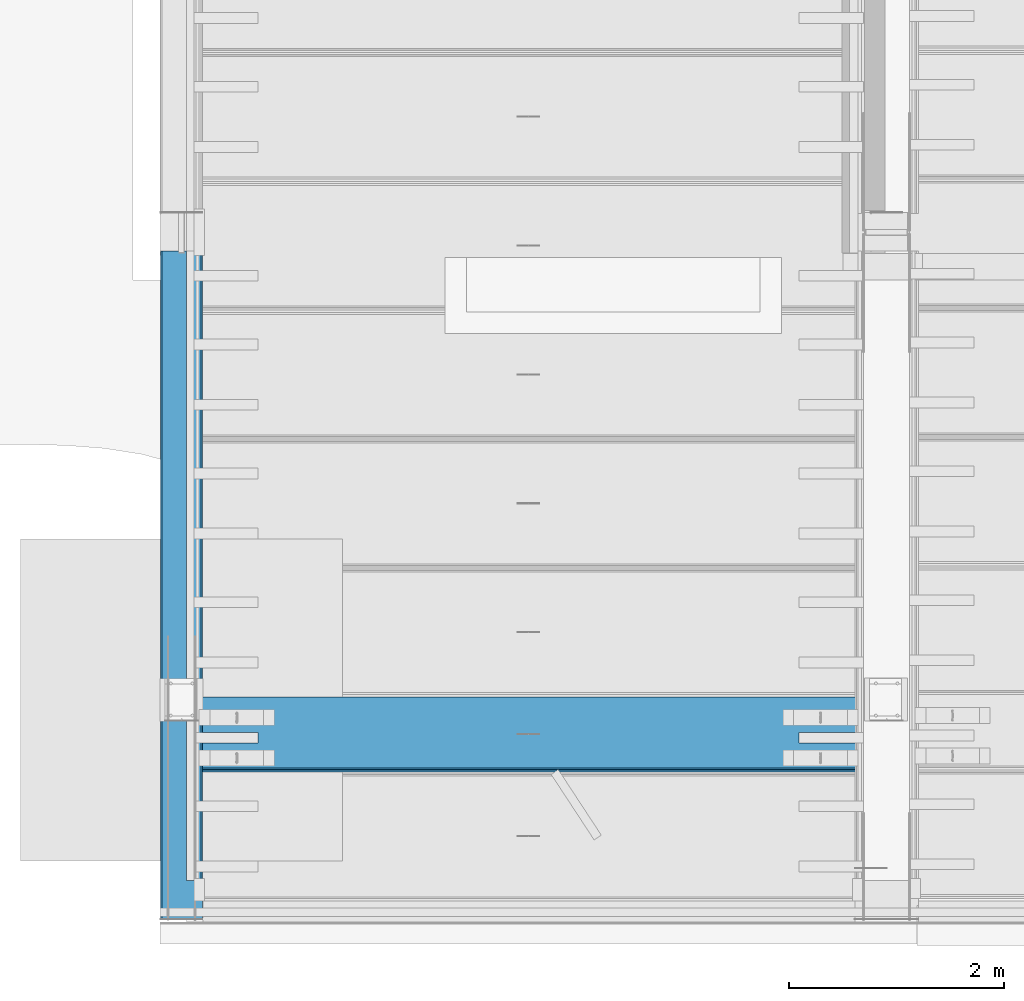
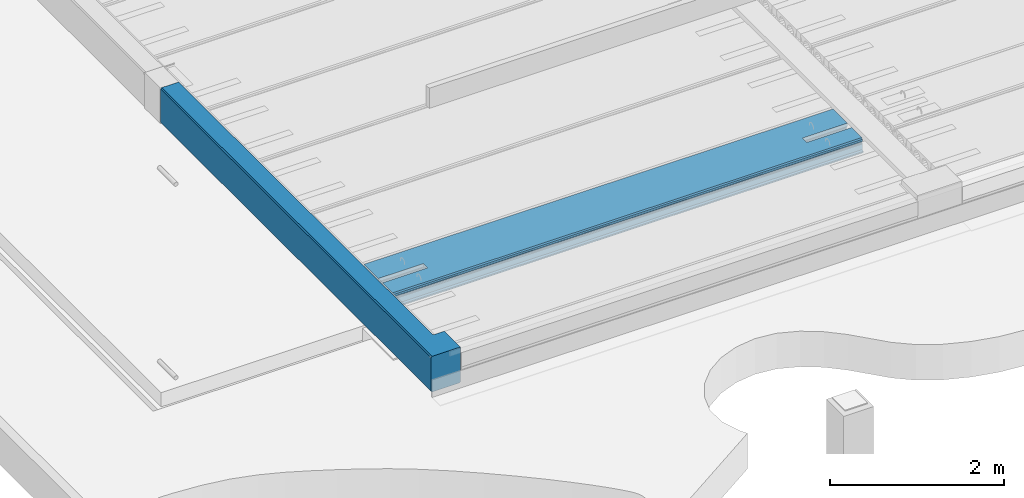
# One storey, part 73 of 230: 2 beams.
"""IFC4X3_ADD2 building model written with IfcOpenShell, lengths in millimetres."""

import ifcopenshell
import ifcopenshell.guid

model = None  # the IFC model being written
_history = None  # IfcOwnerHistory: only IFC2X3 demands one
_inside = {}  # id of a spatial element -> (the spatial element, [elements in it])
_under = {}  # id of a project, library or spatial element -> (it, [spatial elements below it])
_declared = {}  # id of a project -> (the project, [libraries it declares])
_typed = {}  # id of a type object -> (the type object, [elements of that type])
_made_of = {}  # id of a material, layer set ... -> (it, [elements and type objects made of it])


def new_model(schema):
    """Start an empty IFC model of exactly this schema.

    Asked for "IFC4X3", IfcOpenShell would pick the latest addendum, in which some entities
    have other attributes; the version numbers below select the first issue.
    IFC2X3 requires an IfcOwnerHistory on every rooted entity: one is made here for all.
    """
    global model, _history
    if schema == "IFC4X3":
        model = ifcopenshell.file(schema_version=(4, 3, 0, 0))
    else:
        model = ifcopenshell.file(schema=schema)
    _inside.clear()
    _under.clear()
    _declared.clear()
    _typed.clear()
    _made_of.clear()
    _history = None
    if model.schema == "IFC2X3":
        org = make("IfcOrganization", Name="unknown")
        user = make(
            "IfcPersonAndOrganization",
            ThePerson=make("IfcPerson", FamilyName="unknown"),
            TheOrganization=org,
        )
        app = make(
            "IfcApplication",
            ApplicationDeveloper=org,
            Version="unknown",
            ApplicationFullName="unknown",
            ApplicationIdentifier="unknown",
        )
        _history = make(
            "IfcOwnerHistory",
            OwningUser=user,
            OwningApplication=app,
            ChangeAction="ADDED",
            CreationDate=0,
        )
    return model


def make(cls, **values):
    """One entity of the class cls with the attributes given. An attribute that is None is left unset."""
    return model.create_entity(
        cls, **{name: value for name, value in values.items() if value is not None}
    )


def rooted(cls, **values):
    """An entity with a GlobalId (a new one), such as an element, a storey or a relation."""
    return make(cls, GlobalId=ifcopenshell.guid.new(), OwnerHistory=_history, **values)


def si_unit(unit_type, name, prefix=None):
    """IfcSIUnit, for example si_unit("LENGTHUNIT", "METRE", prefix="MILLI")."""
    return make("IfcSIUnit", UnitType=unit_type, Prefix=prefix, Name=name)


def assignment(units):
    """IfcUnitAssignment: the units of a project."""
    return None if units is None else make("IfcUnitAssignment", Units=units)


def point(xyz):
    """IfcCartesianPoint."""
    return None if xyz is None else make("IfcCartesianPoint", Coordinates=xyz)


def direction(xyz):
    """IfcDirection."""
    return None if xyz is None else make("IfcDirection", DirectionRatios=xyz)


def frame(location, z_axis=None, x_axis=None):
    """IfcAxis2Placement3D, a coordinate frame: its origin and axes. An axis left out is left unset."""
    return make(
        "IfcAxis2Placement3D",
        Location=point(location),
        Axis=direction(z_axis),
        RefDirection=direction(x_axis),
    )


def origin_with_axes():
    """The frame at (0, 0, 0) with the z axis (0, 0, 1) and the x axis (1, 0, 0) written out."""
    return frame((0.0, 0.0, 0.0), z_axis=(0.0, 0.0, 1.0), x_axis=(1.0, 0.0, 0.0))


def place(relative_to, where):
    """IfcLocalPlacement: puts the frame where relative to a parent placement (None: the world)."""
    return make(
        "IfcLocalPlacement", PlacementRelTo=relative_to, RelativePlacement=where
    )


def context(
    kind, dimensions, precision=None, world=None, true_north=None, identifier=None
):
    """IfcGeometricRepresentationContext, for example the 3D "Model" context."""
    return make(
        "IfcGeometricRepresentationContext",
        ContextIdentifier=identifier,
        ContextType=kind,
        CoordinateSpaceDimension=dimensions,
        Precision=precision,
        WorldCoordinateSystem=world,
        TrueNorth=true_north,
    )


def subcontext(parent, identifier, kind, view, scale=None):
    """IfcGeometricRepresentationSubContext, for example "Body" below "Model"."""
    return make(
        "IfcGeometricRepresentationSubContext",
        ContextIdentifier=identifier,
        ContextType=kind,
        ParentContext=parent,
        TargetScale=scale,
        TargetView=view,
    )


def project(units=None, contexts=None):
    """IfcProject with its units and contexts."""
    return rooted(
        "IfcProject",
        Name="project",
        RepresentationContexts=contexts,
        UnitsInContext=assignment(units),
    )


def spatial(cls, under=None, at=None, **own):
    """A site, building, storey or space (cls), placed at a placement, below another one or the project."""
    s = rooted(cls, ObjectPlacement=at, **own)
    if under is not None:
        _under.setdefault(under.id(), (under, []))[1].append(s)
    return s


def point_list(points):
    """IfcCartesianPointList2D or 3D."""
    cls = (
        "IfcCartesianPointList2D" if len(points[0]) == 2 else "IfcCartesianPointList3D"
    )
    return make(cls, CoordList=points)


def polygons(points, faces, closed=None, point_numbers=None):
    """IfcPolygonalFaceSet: a face is its outer loop, then its inner loops; points numbered from 1."""
    made = []
    for loops in faces:
        if len(loops) == 1:
            made.append(make("IfcIndexedPolygonalFace", CoordIndex=loops[0]))
        else:
            made.append(
                make(
                    "IfcIndexedPolygonalFaceWithVoids",
                    CoordIndex=loops[0],
                    InnerCoordIndices=loops[1:],
                )
            )
    return make(
        "IfcPolygonalFaceSet",
        Coordinates=point_list(points),
        Closed=closed,
        Faces=made,
        PnIndex=point_numbers,
    )


def shape(context_of_items, identifier, shape_type, items):
    """IfcShapeRepresentation: the items that make up one representation, for example the "Body"."""
    return make(
        "IfcShapeRepresentation",
        ContextOfItems=context_of_items,
        RepresentationIdentifier=identifier,
        RepresentationType=shape_type,
        Items=items,
    )


def made_of(thing, what):
    """Note that an element or type object is made of a material, layer set ...; save() writes the relation."""
    if what is not None:
        _made_of.setdefault(what.id(), (what, []))[1].append(thing)
    return thing


def element(
    cls,
    number,
    at=None,
    inside=None,
    cuts=None,
    type_object=None,
    material=None,
    context=None,
    identifier="Body",
    shape_type=None,
    held_by="IfcProductDefinitionShape",
    body=None,
    shapes=None,
    **own,
):
    """One element of the class cls, such as IfcWall. Its Tag is "e" and its number.

    at: its placement. inside: the storey or other place that contains it. cuts: it is an
    opening in that element (IfcRelVoidsElement). A single representation is given by context,
    identifier, shape_type and body (its items); several are given by shapes. held_by: the class
    of the entity that holds the representations. save() writes the other relations.
    """
    e = rooted(cls, Tag="e%d" % number, ObjectPlacement=at, **own)
    if body is not None:
        shapes = [shape(context, identifier, shape_type, body)]
    if shapes is not None:
        e.Representation = make(held_by, Representations=shapes)
    if inside is not None:
        _inside.setdefault(inside.id(), (inside, []))[1].append(e)
    if cuts is not None:
        rooted(
            "IfcRelVoidsElement", RelatingBuildingElement=cuts, RelatedOpeningElement=e
        )
    if type_object is not None:
        _typed.setdefault(type_object.id(), (type_object, []))[1].append(e)
    return made_of(e, material)


def aggregate(whole, parts):
    """IfcRelAggregates: a whole, such as a stair, and the parts it consists of."""
    return rooted("IfcRelAggregates", RelatingObject=whole, RelatedObjects=parts)


def save(model, path):
    """Write the relations noted so far, then the file.

    IfcRelAggregates (storeys below a building ...), IfcRelContainedInSpatialStructure (elements
    in a storey), IfcRelDefinesByType, IfcRelAssociatesMaterial and IfcRelDeclares: one each for
    every whole, place, type object, material and project.
    """
    for whole, parts in _under.values():
        aggregate(whole, parts)
    for where, things in _inside.values():
        rooted(
            "IfcRelContainedInSpatialStructure",
            RelatedElements=things,
            RelatingStructure=where,
        )
    for kind, things in _typed.values():
        rooted("IfcRelDefinesByType", RelatedObjects=things, RelatingType=kind)
    for what, things in _made_of.values():
        rooted("IfcRelAssociatesMaterial", RelatedObjects=things, RelatingMaterial=what)
    for by, libraries in _declared.values():
        rooted("IfcRelDeclares", RelatingContext=by, RelatedDefinitions=libraries)
    model.write(path)


model = new_model("IFC4X3_ADD2")

# Units and contexts
model_context = context("Model", 3, precision=1e-05, world=origin_with_axes(), true_north=direction((0.0, 1.0)))
body_context = subcontext(model_context, "Body", "Model", "MODEL_VIEW")
ifc_project = project(units=[si_unit("LENGTHUNIT", "METRE", prefix="MILLI"), si_unit("AREAUNIT", "SQUARE_METRE"), si_unit("VOLUMEUNIT", "CUBIC_METRE"), si_unit("PLANEANGLEUNIT", "RADIAN"), si_unit("TIMEUNIT", "SECOND"), si_unit("MASSUNIT", "GRAM")], contexts=[model_context])

# Site, building, storey
site_placement = place(None, origin_with_axes())
site = spatial("IfcSite", under=ifc_project, at=site_placement, Name="Site", CompositionType="ELEMENT")
building_placement = place(site_placement, origin_with_axes())
building = spatial("IfcBuilding", under=site, at=building_placement, Name="IFC Building Story")
storey_placement = place(building_placement, origin_with_axes())
storey = spatial("IfcBuildingStorey", under=building, at=storey_placement, Name="ETAGE 00 (0)", Elevation=0.0)

# Beams
beam_1_placement = place(storey_placement, origin_with_axes())
element("IfcBeam", 1, at=beam_1_placement, inside=storey, Name="HOLLOWCORE SLAB", ObjectType="EB_SP200", context=body_context, shape_type="Tessellation", body=[
    polygons([(33515.6922247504, -13048.999752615, 3999.9999909), (33515.6922247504, -13059.999752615, 4012.9999909), (33515.6922247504, -13059.999752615, 4029.9999909), (33515.6922247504, -13039.999752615, 4044.9999909), (33515.6922247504, -13038.54974040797, 4119.9999909), (33515.6922247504, -13031.01713113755, 4128.676139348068), (33515.6922247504, -13028.15982260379, 4139.805000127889), (33515.6922247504, -13030.58111620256, 4151.036789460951), (33515.6922247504, -13037.76977214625, 4159.9999909), (33515.6922247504, -13037.28845645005, 4185.002769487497), (33515.6922247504, -13021.999752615, 4199.9999909), (33515.6922247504, -12789.999752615, 4199.9999909), (33515.6922247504, -12789.999752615, 4155.806158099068), (33515.6922247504, -12794.6792078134, 4152.679446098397), (33515.6922247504, -12810.82877778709, 4128.509906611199), (33515.6922247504, -12816.499752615, 4099.9999909), (33515.6922247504, -12810.82877778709, 4071.490075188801), (33515.6922247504, -12794.6792078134, 4047.320535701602), (33515.6922247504, -12770.5096683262, 4031.170965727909), (33515.6922247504, -12741.999752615, 4025.4999909), (33515.6922247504, -12713.4898369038, 4031.170965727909), (33515.6922247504, -12689.3202974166, 4047.320535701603), (33515.6922247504, -12673.17072744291, 4071.490075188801), (33515.6922247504, -12667.499752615, 4099.9999909), (33515.6922247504, -12673.17072744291, 4128.509906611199), (33515.6922247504, -12689.3202974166, 4152.679446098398), (33515.6922247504, -12689.999752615, 4153.133443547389), (33515.6922247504, -12689.999752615, 4199.9999909), (33515.6922247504, -12359.999771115, 4199.9999909), (33515.6922247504, -12359.999771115, 4173.306520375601), (33515.6922247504, -12365.999752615, 4174.4999909), (33515.6922247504, -12394.5096683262, 4168.829016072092), (33515.6922247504, -12418.6792078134, 4152.679446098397), (33515.6922247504, -12434.82877778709, 4128.509906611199), (33515.6922247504, -12440.499752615, 4099.9999909), (33515.6922247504, -12434.82877778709, 4071.490075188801), (33515.6922247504, -12418.6792078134, 4047.320535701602), (33515.6922247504, -12394.5096683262, 4031.170965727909), (33515.6922247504, -12365.999752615, 4025.4999909), (33515.6922247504, -12359.999771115, 4026.693461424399), (33515.6922247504, -12359.999771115, 3999.9999909), (33515.6922247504, -12501.3202974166, 4152.679446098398), (33515.6922247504, -12525.4898369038, 4168.829016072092), (33515.6922247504, -12553.999752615, 4174.4999909), (33515.6922247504, -12582.5096683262, 4168.829016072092), (33515.6922247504, -12606.6792078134, 4152.679446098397), (33515.6922247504, -12622.82877778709, 4128.509906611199), (33515.6922247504, -12628.499752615, 4099.9999909), (33515.6922247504, -12622.82877778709, 4071.490075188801), (33515.6922247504, -12606.6792078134, 4047.320535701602), (33515.6922247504, -12582.5096683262, 4031.170965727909), (33515.6922247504, -12553.999752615, 4025.4999909), (33515.6922247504, -12525.4898369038, 4031.170965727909), (33515.6922247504, -12501.3202974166, 4047.320535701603), (33515.6922247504, -12485.17072744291, 4071.490075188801), (33515.6922247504, -12479.499752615, 4099.9999909), (33515.6922247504, -12485.17072744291, 4128.509906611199), (33515.6922247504, -12877.3202974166, 4152.679446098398), (33515.6922247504, -12901.4898369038, 4168.829016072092), (33515.6922247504, -12929.999752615, 4174.4999909), (33515.6922247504, -12958.5096683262, 4168.829016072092), (33515.6922247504, -12982.6792078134, 4152.679446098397), (33515.6922247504, -12998.82877778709, 4128.509906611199), (33515.6922247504, -13004.499752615, 4099.9999909), (33515.6922247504, -12998.82877778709, 4071.490075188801), (33515.6922247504, -12982.6792078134, 4047.320535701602), (33515.6922247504, -12958.5096683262, 4031.170965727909), (33515.6922247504, -12929.999752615, 4025.4999909), (33515.6922247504, -12901.4898369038, 4031.170965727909), (33515.6922247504, -12877.3202974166, 4047.320535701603), (33515.6922247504, -12861.17072744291, 4071.490075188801), (33515.6922247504, -12855.499752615, 4099.9999909), (33515.6922247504, -12861.17072744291, 4128.509906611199), (39750.6922247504, -12689.999752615, 4199.9999909), (39750.6922247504, -12689.999752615, 4153.133443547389), (39750.6922247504, -12689.3202974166, 4152.679446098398), (39750.6922247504, -12673.17072744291, 4128.509906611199), (39750.6922247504, -12667.499752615, 4099.9999909), (39750.6922247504, -12673.17072744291, 4071.490075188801), (39750.6922247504, -12689.3202974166, 4047.320535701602), (39750.6922247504, -12713.4898369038, 4031.170965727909), (39750.6922247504, -12741.999752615, 4025.4999909), (39750.6922247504, -12770.5096683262, 4031.170965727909), (39750.6922247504, -12794.6792078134, 4047.320535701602), (39750.6922247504, -12810.82877778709, 4071.490075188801), (39750.6922247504, -12816.499752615, 4099.9999909), (39750.6922247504, -12810.82877778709, 4128.509906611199), (39750.6922247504, -12794.6792078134, 4152.679446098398), (39750.6922247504, -12789.999752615, 4155.806158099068), (39750.6922247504, -12789.999752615, 4199.9999909), (39750.6922247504, -13021.999752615, 4199.9999909), (39750.6922247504, -13037.28845645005, 4185.002769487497), (39750.6922247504, -13037.76977214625, 4159.9999909), (39750.6922247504, -13030.58111620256, 4151.036789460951), (39750.6922247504, -13028.15982260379, 4139.805000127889), (39750.6922247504, -13031.01713113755, 4128.676139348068), (39750.6922247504, -13038.54974040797, 4119.9999909), (39750.6922247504, -13039.999752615, 4044.9999909), (39750.6922247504, -13059.999752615, 4029.9999909), (39750.6922247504, -13059.999752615, 4012.9999909), (39750.6922247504, -13048.999752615, 3999.9999909), (39750.6922247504, -12359.999771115, 3999.9999909), (39750.6922247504, -12359.999771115, 4026.693461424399), (39750.6922247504, -12365.999752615, 4025.4999909), (39750.6922247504, -12394.5096683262, 4031.170965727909), (39750.6922247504, -12418.6792078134, 4047.320535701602), (39750.6922247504, -12434.82877778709, 4071.490075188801), (39750.6922247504, -12440.499752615, 4099.9999909), (39750.6922247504, -12434.82877778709, 4128.509906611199), (39750.6922247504, -12418.6792078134, 4152.679446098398), (39750.6922247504, -12394.5096683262, 4168.829016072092), (39750.6922247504, -12365.999752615, 4174.4999909), (39750.6922247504, -12359.999771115, 4173.306520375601), (39750.6922247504, -12359.999771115, 4199.9999909), (39750.6922247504, -12501.3202974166, 4152.679446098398), (39750.6922247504, -12485.17072744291, 4128.509906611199), (39750.6922247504, -12479.499752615, 4099.9999909), (39750.6922247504, -12485.17072744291, 4071.490075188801), (39750.6922247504, -12501.3202974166, 4047.320535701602), (39750.6922247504, -12525.4898369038, 4031.170965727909), (39750.6922247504, -12553.999752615, 4025.4999909), (39750.6922247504, -12582.5096683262, 4031.170965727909), (39750.6922247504, -12606.6792078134, 4047.320535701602), (39750.6922247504, -12622.82877778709, 4071.490075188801), (39750.6922247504, -12628.499752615, 4099.9999909), (39750.6922247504, -12622.82877778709, 4128.509906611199), (39750.6922247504, -12606.6792078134, 4152.679446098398), (39750.6922247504, -12582.5096683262, 4168.829016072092), (39750.6922247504, -12553.999752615, 4174.4999909), (39750.6922247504, -12525.4898369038, 4168.829016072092), (39750.6922247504, -12877.3202974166, 4152.679446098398), (39750.6922247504, -12861.17072744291, 4128.509906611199), (39750.6922247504, -12855.499752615, 4099.9999909), (39750.6922247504, -12861.17072744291, 4071.490075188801), (39750.6922247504, -12877.3202974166, 4047.320535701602), (39750.6922247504, -12901.4898369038, 4031.170965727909), (39750.6922247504, -12929.999752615, 4025.4999909), (39750.6922247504, -12958.5096683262, 4031.170965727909), (39750.6922247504, -12982.6792078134, 4047.320535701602), (39750.6922247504, -12998.82877778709, 4071.490075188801), (39750.6922247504, -13004.499752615, 4099.9999909), (39750.6922247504, -12998.82877778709, 4128.509906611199), (39750.6922247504, -12982.6792078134, 4152.679446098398), (39750.6922247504, -12958.5096683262, 4168.829016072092), (39750.6922247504, -12929.999752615, 4174.4999909), (39750.6922247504, -12901.4898369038, 4168.829016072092), (39150.69222475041, -12789.999752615, 4199.9999909), (39150.69222475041, -12689.999752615, 4199.9999909), (34115.6922247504, -12689.999752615, 4199.9999909), (34115.6922247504, -12789.999752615, 4199.9999909), (39150.69222475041, -12689.999752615, 4153.13344354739), (39150.69222475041, -12713.4898369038, 4168.829016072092), (34115.6922247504, -12713.4898369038, 4168.829016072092), (34115.6922247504, -12689.999752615, 4153.133443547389), (39150.69222475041, -12741.999752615, 4174.4999909), (34115.6922247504, -12741.999752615, 4174.4999909), (39150.69222475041, -12770.5096683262, 4168.829016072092), (34115.6922247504, -12770.5096683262, 4168.829016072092), (34115.6922247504, -12789.999752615, 4155.806158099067), (39150.69222475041, -12789.999752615, 4155.806158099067), (39150.69222475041, -12689.999752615, 4199.999996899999), (39150.69222475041, -12789.999752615, 4199.999996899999), (34115.6922247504, -12789.999752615, 4199.999996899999), (34115.6922247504, -12689.999752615, 4199.999996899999)], [[[26, 27, 28]], [[45, 46, 25]], [[45, 25, 26]], [[45, 26, 28]], [[28, 44, 45]], [[44, 28, 29]], [[29, 43, 44]], [[29, 42, 43]], [[47, 48, 24]], [[47, 24, 25]], [[25, 46, 47]], [[49, 50, 23]], [[23, 24, 48]], [[23, 48, 49]], [[50, 22, 23]], [[32, 33, 57]], [[32, 57, 42]], [[32, 42, 29]], [[29, 31, 32]], [[29, 30, 31]], [[34, 35, 56]], [[34, 56, 57]], [[57, 33, 34]], [[36, 37, 55]], [[55, 56, 35]], [[55, 35, 36]], [[39, 40, 41]], [[41, 38, 39]], [[41, 54, 55]], [[41, 55, 37]], [[41, 37, 38]], [[41, 53, 54]], [[41, 52, 53]], [[41, 21, 52]], [[21, 51, 52]], [[21, 22, 50]], [[21, 50, 51]], [[41, 20, 21]], [[41, 1, 20]], [[1, 19, 20]], [[1, 18, 19]], [[8, 9, 10]], [[8, 10, 11]], [[62, 63, 7]], [[62, 7, 8]], [[8, 11, 61]], [[8, 61, 62]], [[11, 60, 61]], [[60, 11, 12]], [[12, 59, 60]], [[12, 58, 59]], [[63, 6, 7]], [[65, 66, 4]], [[4, 5, 64]], [[4, 64, 65]], [[5, 6, 63]], [[5, 63, 64]], [[69, 70, 17]], [[69, 17, 18]], [[18, 68, 69]], [[18, 1, 68]], [[1, 67, 68]], [[1, 4, 66]], [[1, 66, 67]], [[1, 2, 3]], [[1, 3, 4]], [[71, 72, 16]], [[71, 16, 17]], [[17, 70, 71]], [[73, 58, 15]], [[15, 16, 72]], [[15, 72, 73]], [[58, 12, 14]], [[58, 14, 15]], [[12, 13, 14]], [[98, 99, 100]], [[98, 100, 101]], [[112, 113, 114]], [[114, 111, 112]], [[114, 110, 111]], [[110, 114, 115]], [[115, 109, 110]], [[116, 117, 108]], [[116, 108, 109]], [[109, 115, 116]], [[117, 118, 107]], [[117, 107, 108]], [[118, 106, 107]], [[130, 115, 114]], [[114, 129, 130]], [[114, 74, 129]], [[74, 128, 129]], [[74, 127, 128]], [[74, 75, 126]], [[74, 126, 127]], [[77, 78, 125]], [[77, 125, 126]], [[126, 76, 77]], [[126, 75, 76]], [[79, 80, 124]], [[124, 125, 78]], [[124, 78, 79]], [[80, 123, 124]], [[88, 89, 90]], [[90, 131, 87]], [[90, 87, 88]], [[132, 133, 86]], [[132, 86, 87]], [[87, 131, 132]], [[134, 135, 85]], [[85, 86, 133]], [[85, 133, 134]], [[141, 142, 96]], [[141, 96, 97]], [[97, 98, 140]], [[97, 140, 141]], [[98, 101, 139]], [[98, 139, 140]], [[101, 138, 139]], [[101, 137, 138]], [[101, 136, 137]], [[101, 84, 136]], [[84, 85, 135]], [[84, 135, 136]], [[101, 83, 84]], [[101, 82, 83]], [[101, 122, 82]], [[122, 81, 82]], [[122, 123, 80]], [[122, 80, 81]], [[101, 121, 122]], [[101, 102, 121]], [[102, 120, 121]], [[102, 119, 120]], [[102, 106, 118]], [[102, 118, 119]], [[102, 105, 106]], [[102, 104, 105]], [[102, 103, 104]], [[142, 95, 96]], [[146, 131, 90]], [[90, 145, 146]], [[90, 91, 145]], [[91, 144, 145]], [[91, 94, 143]], [[91, 143, 144]], [[94, 95, 142]], [[94, 142, 143]], [[91, 92, 93]], [[91, 93, 94]], [[101, 1, 41, 102]], [[2, 1, 101, 100]], [[3, 2, 100, 99]], [[4, 3, 99, 98]], [[5, 4, 98, 97]], [[6, 5, 97, 96]], [[7, 6, 96, 95]], [[8, 7, 95, 94]], [[9, 8, 94, 93]], [[10, 9, 93, 92]], [[11, 10, 92, 91]], [[148, 74, 114]], [[148, 114, 29]], [[29, 147, 148]], [[150, 12, 11]], [[150, 11, 91]], [[91, 149, 150]], [[91, 147, 29]], [[91, 29, 149]], [[29, 28, 149]], [[91, 90, 147]], [[112, 31, 30, 113]], [[32, 31, 112, 111]], [[33, 32, 111, 110]], [[34, 33, 110, 109]], [[35, 34, 109, 108]], [[36, 35, 108, 107]], [[37, 36, 107, 106]], [[38, 37, 106, 105]], [[39, 38, 105, 104]], [[39, 104, 103, 40]], [[43, 42, 115, 130]], [[44, 43, 130, 129]], [[45, 44, 129, 128]], [[46, 45, 128, 127]], [[47, 46, 127, 126]], [[48, 47, 126, 125]], [[49, 48, 125, 124]], [[50, 49, 124, 123]], [[51, 50, 123, 122]], [[52, 51, 122, 121]], [[53, 52, 121, 120]], [[54, 53, 120, 119]], [[55, 54, 119, 118]], [[56, 55, 118, 117]], [[57, 56, 117, 116]], [[42, 57, 116, 115]], [[154, 27, 26]], [[154, 26, 151]], [[151, 152, 153]], [[151, 153, 154]], [[26, 76, 151]], [[76, 75, 151]], [[153, 152, 155, 156]], [[156, 155, 157, 158]], [[160, 89, 88]], [[160, 88, 159]], [[159, 158, 157]], [[159, 157, 160]], [[88, 14, 159]], [[14, 13, 159]], [[15, 14, 88, 87]], [[16, 15, 87, 86]], [[17, 16, 86, 85]], [[18, 17, 85, 84]], [[19, 18, 84, 83]], [[20, 19, 83, 82]], [[21, 20, 82, 81]], [[22, 21, 81, 80]], [[23, 22, 80, 79]], [[24, 23, 79, 78]], [[25, 24, 78, 77]], [[26, 25, 77, 76]], [[59, 58, 131, 146]], [[60, 59, 146, 145]], [[61, 60, 145, 144]], [[62, 61, 144, 143]], [[63, 62, 143, 142]], [[64, 63, 142, 141]], [[65, 64, 141, 140]], [[66, 65, 140, 139]], [[67, 66, 139, 138]], [[68, 67, 138, 137]], [[69, 68, 137, 136]], [[70, 69, 136, 135]], [[71, 70, 135, 134]], [[72, 71, 134, 133]], [[73, 72, 133, 132]], [[58, 73, 132, 131]], [[90, 89, 160, 147]], [[75, 74, 161, 151]], [[152, 151, 148]], [[148, 162, 155]], [[148, 155, 152]], [[162, 157, 155]], [[162, 160, 157]], [[28, 27, 154, 149]], [[13, 12, 163, 159]], [[158, 159, 150]], [[150, 156, 158]], [[150, 164, 153]], [[150, 153, 156]], [[164, 154, 153]], [[30, 29, 114, 113]], [[41, 40, 103, 102]]]),
])
beam_2_placement = place(storey_placement, origin_with_axes())
element("IfcBeam", 2, at=beam_2_placement, inside=storey, Name="BEAM", ObjectType="EB_RL_A500*390*225*150*15", context=body_context, shape_type="Tessellation", body=[
    polygons([(33596.188, -8210.0, 3785.000000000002), (33596.188, -14440.0, 3785.000000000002), (33581.18799999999, -14440.0, 3770.0), (33581.18799999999, -8210.0, 3770.0), (33221.188, -14440.0, 3770.0), (33221.188, -8210.0, 3770.0), (33206.188, -8210.0, 4255.000000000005), (33206.188, -14440.0, 4255.000000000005), (33221.188, -14440.0, 4270.0), (33221.188, -8210.0, 4270.0), (33206.188, -8210.0, 3785.000000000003), (33206.188, -14440.0, 3785.000000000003), (33446.188, -8210.0, 4270.0), (33446.188, -8210.0, 3995.000000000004), (33581.18799999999, -8210.0, 3995.000000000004), (33596.188, -8210.0, 3980.0), (33596.188, -14070.0, 3980.0), (33596.188, -14440.0, 3980.0), (33446.188, -14440.0, 4270.0), (33446.188, -14070.0, 4270.0), (33446.188, -14070.0, 3995.000000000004), (33581.18799999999, -14070.0, 3995.000000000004), (33596.188, -14440.0, 4270.0), (33596.188, -14070.0, 4270.0)], [[[1, 2, 3, 4]], [[4, 3, 5, 6]], [[7, 8, 9, 10]], [[11, 12, 8, 7]], [[6, 5, 12, 11]], [[14, 15, 16]], [[14, 16, 1]], [[14, 1, 4]], [[14, 4, 6]], [[14, 6, 11]], [[11, 7, 10]], [[11, 10, 13]], [[11, 13, 14]], [[17, 18, 2]], [[2, 1, 16]], [[2, 16, 17]], [[20, 13, 10]], [[20, 10, 9]], [[9, 19, 20]], [[20, 21, 14, 13]], [[21, 22, 15, 14]], [[22, 17, 16, 15]], [[19, 9, 8]], [[19, 8, 12]], [[19, 12, 5]], [[19, 5, 3]], [[18, 23, 19]], [[19, 3, 18]], [[3, 2, 18]], [[20, 19, 23, 24]], [[22, 21, 20]], [[22, 20, 24]], [[24, 17, 22]], [[24, 23, 18, 17]]]),
])

save(model, "model.ifc")
